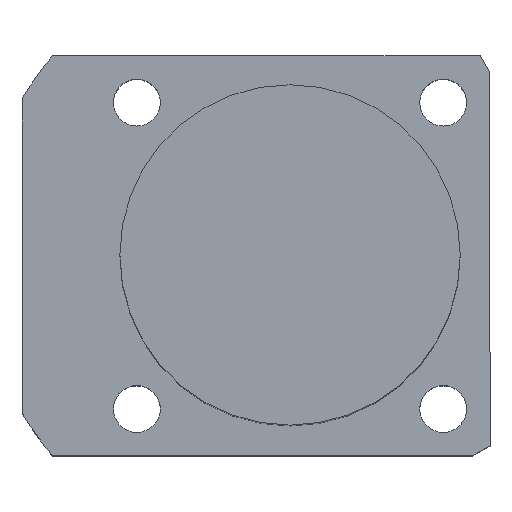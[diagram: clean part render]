
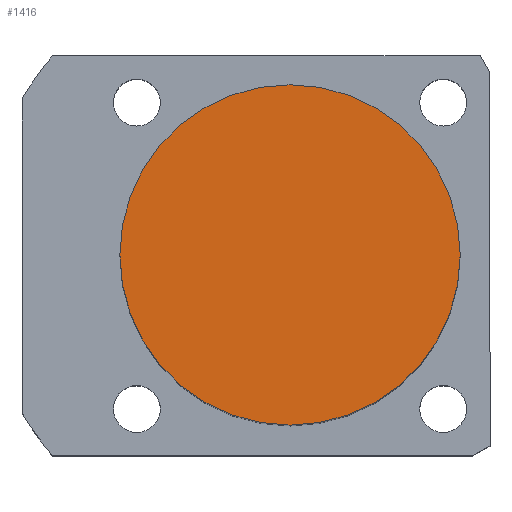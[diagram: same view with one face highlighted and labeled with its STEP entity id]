
A CAD part, top view. The second image highlights one B-rep face of the part: STEP entity #1416.
In plain terms, the highlighted planar face has unit normal (0, 0, 1).
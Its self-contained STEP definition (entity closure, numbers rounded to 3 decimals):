
#56 = CARTESIAN_POINT ( 'NONE',  ( 20., 0., 71.5 ) ) ;
#236 = FACE_OUTER_BOUND ( 'NONE', #875, .T. ) ;
#337 = CIRCLE ( 'NONE', #1111, 20. ) ;
#354 = DIRECTION ( 'NONE',  ( 0., 0., 1. ) ) ;
#373 = AXIS2_PLACEMENT_3D ( 'NONE', #1109, #1565, #736 ) ;
#415 = PLANE ( 'NONE',  #373 ) ;
#536 = DIRECTION ( 'NONE',  ( 1., 0., 0. ) ) ;
#736 = DIRECTION ( 'NONE',  ( 1., 0., 0. ) ) ;
#875 = EDGE_LOOP ( 'NONE', ( #880, #1164 ) ) ;
#880 = ORIENTED_EDGE ( 'NONE', *, *, #1118, .T. ) ;
#974 = DIRECTION ( 'NONE',  ( 0., 0., 1. ) ) ;
#985 = VERTEX_POINT ( 'NONE', #1427 ) ;
#1109 = CARTESIAN_POINT ( 'NONE',  ( 0., 0., 71.5 ) ) ;
#1111 = AXIS2_PLACEMENT_3D ( 'NONE', #1346, #354, #536 ) ;
#1118 = EDGE_CURVE ( 'NONE', #985, #2055, #2040, .T. ) ;
#1164 = ORIENTED_EDGE ( 'NONE', *, *, #1734, .T. ) ;
#1346 = CARTESIAN_POINT ( 'NONE',  ( 0., 0., 71.5 ) ) ;
#1416 = ADVANCED_FACE ( 'NONE', ( #236 ), #415, .T. ) ;
#1427 = CARTESIAN_POINT ( 'NONE',  ( -20., 0., 71.5 ) ) ;
#1565 = DIRECTION ( 'NONE',  ( 0., 0., 1. ) ) ;
#1676 = AXIS2_PLACEMENT_3D ( 'NONE', #1970, #974, #2132 ) ;
#1734 = EDGE_CURVE ( 'NONE', #2055, #985, #337, .T. ) ;
#1970 = CARTESIAN_POINT ( 'NONE',  ( 0., 0., 71.5 ) ) ;
#2040 = CIRCLE ( 'NONE', #1676, 20. ) ;
#2055 = VERTEX_POINT ( 'NONE', #56 ) ;
#2132 = DIRECTION ( 'NONE',  ( 1., 0., 0. ) ) ;
